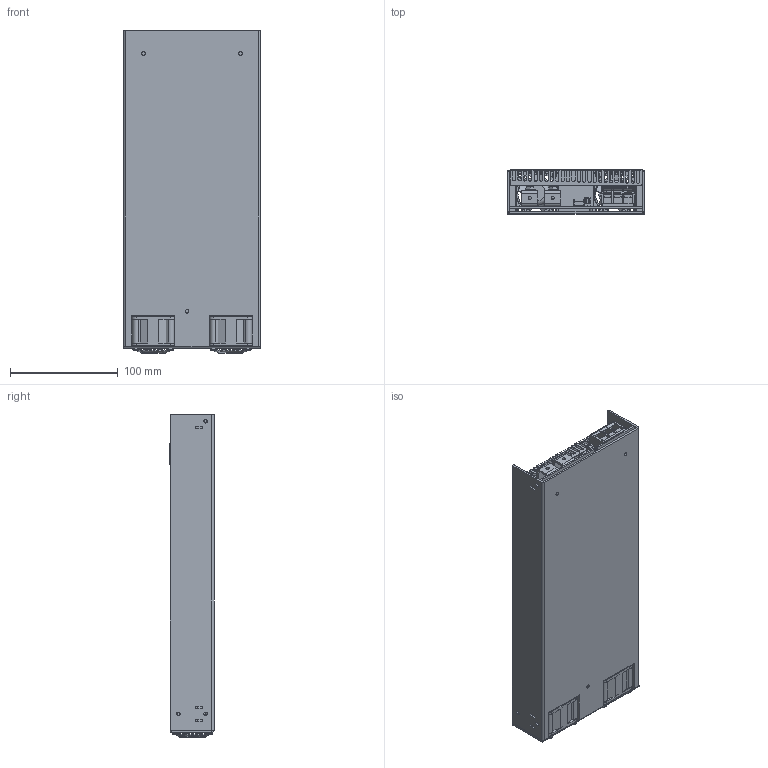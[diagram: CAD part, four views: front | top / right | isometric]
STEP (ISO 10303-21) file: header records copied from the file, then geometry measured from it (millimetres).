
FILE_DESCRIPTION (( 'STEP AP214' ), '1' );
FILE_NAME ('TXL-1000.STEP', '2019-07-09T09:20:52', ( 'users' ), ( '' ), 'SwSTEP 2.0', 'SolidWorks 2012', '' );
FILE_SCHEMA (( 'AUTOMOTIVE_DESIGN' ));
Length unit declared in the file: millimetre
Products named in the file (13): LABEL; COVER; HOUSING 2; BASE; H1; HOUSING 1; TML; PCB; GUARD; FAN40x28; CASE; TXL-1000; SCREW
Assembly tree (16 placements, depth 2):
  TXL-1000
    CASE
    FAN40x28  x2
    GUARD  x2
    PCB
    TML
    HOUSING 1
    H1  x2
    BASE
    HOUSING 2
    COVER
    LABEL
    SCREW  x2
Bounding box: 127 x 40.9 x 299.54 mm (x, y, z)
Volume: 237605.6 mm3; surface area: 304647 mm2
Topology: 20 solids, 20 shells, 2791 faces, 7353 edges, 4624 vertices
Faces by surface type: plane 1730, cylinder 486, bspline 469, torus 68, sphere 32, cone 6
Entity records: 101476 total; most frequent: CARTESIAN_POINT 37792, ORIENTED_EDGE 13118, DIRECTION 10774, EDGE_CURVE 6559, VECTOR 4688, LINE 4688, VERTEX_POINT 4175, AXIS2_PLACEMENT_3D 3043
